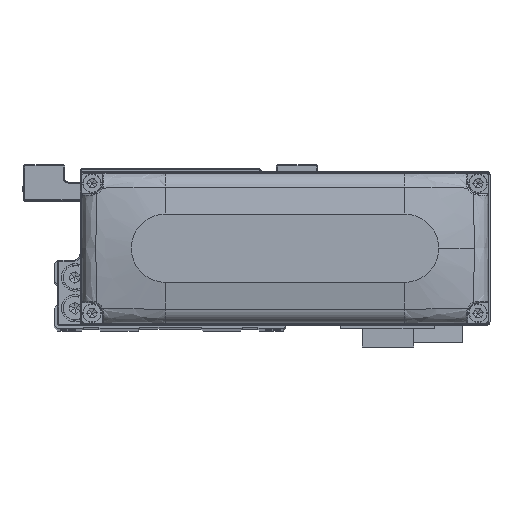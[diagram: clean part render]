
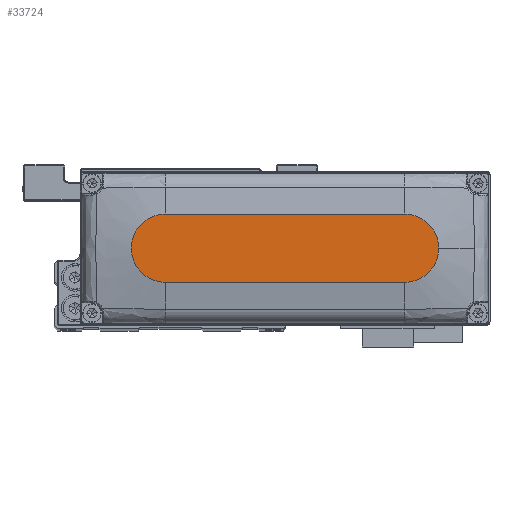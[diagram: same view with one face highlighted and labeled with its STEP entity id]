
A CAD part, top view. The second image highlights one B-rep face of the part: STEP entity #33724.
In plain terms, the highlighted planar face has unit normal (0, 0, 1).
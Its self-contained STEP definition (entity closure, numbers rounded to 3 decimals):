
#118 = EDGE_LOOP ( 'NONE', ( #38297, #38293, #19456, #30579, #6886 ) ) ;
#142 = CIRCLE ( 'NONE', #22084, 10. ) ;
#516 = LINE ( 'NONE', #12491, #2731 ) ;
#2626 = CARTESIAN_POINT ( 'NONE',  ( 0., 0., 28. ) ) ;
#2731 = VECTOR ( 'NONE', #24463, 1000. ) ;
#3103 = CARTESIAN_POINT ( 'NONE',  ( -35., 10., 28. ) ) ;
#4909 = DIRECTION ( 'NONE',  ( 0., 0., 1. ) ) ;
#5354 = EDGE_CURVE ( 'NONE', #15576, #35874, #516, .T. ) ;
#5854 = VERTEX_POINT ( 'NONE', #32206 ) ;
#6656 = CIRCLE ( 'NONE', #28582, 10. ) ;
#6886 = ORIENTED_EDGE ( 'NONE', *, *, #11742, .T. ) ;
#7497 = EDGE_CURVE ( 'NONE', #5854, #23756, #6656, .T. ) ;
#8439 = DIRECTION ( 'NONE',  ( 0., 0., 1. ) ) ;
#9915 = CIRCLE ( 'NONE', #31835, 10. ) ;
#10120 = DIRECTION ( 'NONE',  ( 0., 0., 1. ) ) ;
#10604 = DIRECTION ( 'NONE',  ( 1., 0., 0. ) ) ;
#10729 = CARTESIAN_POINT ( 'NONE',  ( 35., 10., 28. ) ) ;
#11742 = EDGE_CURVE ( 'NONE', #23756, #15576, #9915, .T. ) ;
#12491 = CARTESIAN_POINT ( 'NONE',  ( -35., 10., 28. ) ) ;
#13051 = VERTEX_POINT ( 'NONE', #31524 ) ;
#14610 = DIRECTION ( 'NONE',  ( 0., 0., 1. ) ) ;
#15576 = VERTEX_POINT ( 'NONE', #10729 ) ;
#15902 = VECTOR ( 'NONE', #10604, 1000. ) ;
#16837 = EDGE_CURVE ( 'NONE', #35874, #13051, #142, .T. ) ;
#16877 = DIRECTION ( 'NONE',  ( 1., 0., 0. ) ) ;
#17555 = FACE_OUTER_BOUND ( 'NONE', #118, .T. ) ;
#18076 = EDGE_CURVE ( 'NONE', #13051, #5854, #25538, .T. ) ;
#19456 = ORIENTED_EDGE ( 'NONE', *, *, #18076, .T. ) ;
#20421 = DIRECTION ( 'NONE',  ( 1., 0., 0. ) ) ;
#22084 = AXIS2_PLACEMENT_3D ( 'NONE', #31788, #4909, #16877 ) ;
#22097 = DIRECTION ( 'NONE',  ( 1., 0., 0. ) ) ;
#23756 = VERTEX_POINT ( 'NONE', #25047 ) ;
#24463 = DIRECTION ( 'NONE',  ( -1., 0., 0. ) ) ;
#25047 = CARTESIAN_POINT ( 'NONE',  ( 45., 0., 28. ) ) ;
#25538 = LINE ( 'NONE', #37478, #15902 ) ;
#26583 = DIRECTION ( 'NONE',  ( 1., 0., 0. ) ) ;
#28582 = AXIS2_PLACEMENT_3D ( 'NONE', #35292, #8439, #20421 ) ;
#29522 = PLANE ( 'NONE',  #35225 ) ;
#30579 = ORIENTED_EDGE ( 'NONE', *, *, #7497, .T. ) ;
#31524 = CARTESIAN_POINT ( 'NONE',  ( -35., -10., 28. ) ) ;
#31788 = CARTESIAN_POINT ( 'NONE',  ( -35., 0., 28. ) ) ;
#31835 = AXIS2_PLACEMENT_3D ( 'NONE', #36989, #10120, #22097 ) ;
#32206 = CARTESIAN_POINT ( 'NONE',  ( 35., -10., 28. ) ) ;
#33724 = ADVANCED_FACE ( 'NONE', ( #17555 ), #29522, .T. ) ;
#35225 = AXIS2_PLACEMENT_3D ( 'NONE', #2626, #14610, #26583 ) ;
#35292 = CARTESIAN_POINT ( 'NONE',  ( 35., 0., 28. ) ) ;
#35874 = VERTEX_POINT ( 'NONE', #3103 ) ;
#36989 = CARTESIAN_POINT ( 'NONE',  ( 35., 0., 28. ) ) ;
#37478 = CARTESIAN_POINT ( 'NONE',  ( -35., -10., 28. ) ) ;
#38293 = ORIENTED_EDGE ( 'NONE', *, *, #16837, .T. ) ;
#38297 = ORIENTED_EDGE ( 'NONE', *, *, #5354, .T. ) ;
